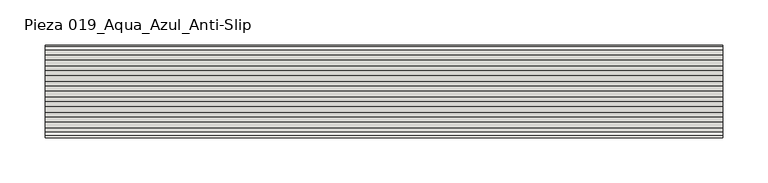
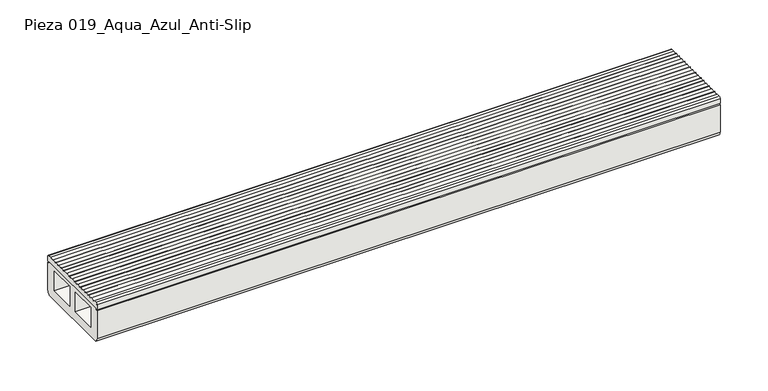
"""IFC4 building model written with IfcOpenShell, lengths in millimetres: slab geometry, ROSA GRES_019 : Pieza 019_Aqua_Azul_Anti-Slip."""

from ifc_helpers import new_model, si_unit, point, frame, frame_2d, origin, place, context, project, spatial, polyline, circle_curve, trimmed, segment, composite_curve, outline, extrude, source, transform, mapped, element, save


def pieza_019_aqua_azul_anti_slip_f86fad29(model_context):
    return source(origin(), model_context, "Body", "SweptSolid", [
        extrude(outline(composite_curve([segment(polyline([(-2.5063138, 42.1085977), (-2.5063138, 40.6048094), (0.0, 40.6048094), (0.0, 5.0126276)]), True, "CONTINUOUS"), segment(trimmed(circle_curve(frame_2d((-5.0126276, 5.0126276)), 5.0126276), [point((0.0, 5.0126276))], [point((-5.0126276, 0.0))], False, "CARTESIAN"), True, "CONTINUOUS"), segment(polyline([(-5.0126276, 0.0), (-97.2449763, 0.0)]), True, "CONTINUOUS"), segment(trimmed(circle_curve(frame_2d((-97.2449763, 5.0126276)), 5.0126276), [point((-97.2449763, 0.0))], [point((-102.2576039, 5.0126276))], False, "CARTESIAN"), True, "CONTINUOUS"), segment(polyline([(-102.2576039, 5.0126276), (-102.2576039, 40.6048094), (-99.7512901, 40.6048094), (-99.7512901, 42.1085977), (-2.5063138, 42.1085977)]), True, "CONTINUOUS")], self_intersect=False), holes=[polyline([(-45.1136488, 37.0959701), (-45.1136488, 12.0328319), (-13.0328319, 12.0328319), (-13.0328319, 37.0959701), (-45.1136488, 37.0959701)]), polyline([(-89.2247721, 37.0959701), (-89.2247721, 12.0328319), (-57.1439551, 12.0328319), (-57.1439551, 37.0959701), (-89.2247721, 37.0959701)])]), frame((0.0, 0.0, 0.0), z_axis=(1.0, 0.0, 0.0), x_axis=(0.0, 1.0, 0.0)), (0.0, 0.0, 1.0), 750.0),
        extrude(outline(composite_curve([segment(trimmed(circle_curve(frame_2d((-100.2525529, 48.1237509)), 2.0050511), [point((-102.2576039, 48.1237509))], [point((-100.2525529, 50.128802))], False, "CARTESIAN"), True, "CONTINUOUS"), segment(polyline([(-100.2525529, 50.128802), (-96.4873892, 50.128802)]), True, "CONTINUOUS"), segment(trimmed(circle_curve(frame_2d((-94.0124786, 52.6161241)), 3.5088394), [point((-96.4873892, 50.128802))], [point((-91.1535668, 50.5817748))], True, "CARTESIAN"), True, "CONTINUOUS"), segment(trimmed(circle_curve(frame_2d((-88.2946551, 52.6161241)), 3.5088394), [point((-91.1535668, 50.5817748))], [point((-85.4357433, 50.5817748))], True, "CARTESIAN"), True, "CONTINUOUS"), segment(trimmed(circle_curve(frame_2d((-82.5768315, 52.6161241)), 3.5088394), [point((-85.4357433, 50.5817748))], [point((-79.7179197, 50.5817748))], True, "CARTESIAN"), True, "CONTINUOUS"), segment(trimmed(circle_curve(frame_2d((-76.859008, 52.6161241)), 3.5088394), [point((-79.7179197, 50.5817748))], [point((-74.0000962, 50.5817748))], True, "CARTESIAN"), True, "CONTINUOUS"), segment(trimmed(circle_curve(frame_2d((-71.1411844, 52.6161241)), 3.5088394), [point((-74.0000962, 50.5817748))], [point((-68.2822726, 50.5817748))], True, "CARTESIAN"), True, "CONTINUOUS"), segment(trimmed(circle_curve(frame_2d((-65.4233609, 52.6161241)), 3.5088394), [point((-68.2822726, 50.5817748))], [point((-62.5644491, 50.5817748))], True, "CARTESIAN"), True, "CONTINUOUS"), segment(trimmed(circle_curve(frame_2d((-59.7055373, 52.6161241)), 3.5088394), [point((-62.5644491, 50.5817748))], [point((-56.8466255, 50.5817748))], True, "CARTESIAN"), True, "CONTINUOUS"), segment(trimmed(circle_curve(frame_2d((-53.9877138, 52.6161241)), 3.5088394), [point((-56.8466255, 50.5817748))], [point((-51.128802, 50.5817748))], True, "CARTESIAN"), True, "CONTINUOUS"), segment(trimmed(circle_curve(frame_2d((-48.2698902, 52.6161241)), 3.5088394), [point((-51.128802, 50.5817748))], [point((-45.4109784, 50.5817748))], True, "CARTESIAN"), True, "CONTINUOUS"), segment(trimmed(circle_curve(frame_2d((-42.5520666, 52.6161241)), 3.5088394), [point((-45.4109784, 50.5817748))], [point((-39.6931549, 50.5817748))], True, "CARTESIAN"), True, "CONTINUOUS"), segment(trimmed(circle_curve(frame_2d((-36.8342431, 52.6161241)), 3.5088394), [point((-39.6931549, 50.5817748))], [point((-33.9753313, 50.5817748))], True, "CARTESIAN"), True, "CONTINUOUS"), segment(trimmed(circle_curve(frame_2d((-31.1164195, 52.6161241)), 3.5088394), [point((-33.9753313, 50.5817748))], [point((-28.2575078, 50.5817748))], True, "CARTESIAN"), True, "CONTINUOUS"), segment(trimmed(circle_curve(frame_2d((-25.398596, 52.6161241)), 3.5088394), [point((-28.2575078, 50.5817748))], [point((-22.5396842, 50.5817748))], True, "CARTESIAN"), True, "CONTINUOUS"), segment(trimmed(circle_curve(frame_2d((-19.6807724, 52.6161241)), 3.5088394), [point((-22.5396842, 50.5817748))], [point((-16.8218607, 50.5817748))], True, "CARTESIAN"), True, "CONTINUOUS"), segment(trimmed(circle_curve(frame_2d((-13.9629489, 52.6161241)), 3.5088394), [point((-16.8218607, 50.5817748))], [point((-11.1040371, 50.5817748))], True, "CARTESIAN"), True, "CONTINUOUS"), segment(trimmed(circle_curve(frame_2d((-8.2451253, 52.6161241)), 3.5088394), [point((-11.1040371, 50.5817748))], [point((-5.7702148, 50.128802))], True, "CARTESIAN"), True, "CONTINUOUS"), segment(polyline([(-5.7702148, 50.128802), (-2.0050511, 50.128802)]), True, "CONTINUOUS"), segment(trimmed(circle_curve(frame_2d((-2.0050511, 48.1237509)), 2.0050511), [point((-2.0050511, 50.128802))], [point((0.0, 48.1237509))], False, "CARTESIAN"), True, "CONTINUOUS"), segment(polyline([(0.0, 48.1237509), (0.0, 42.1085977), (-102.2576039, 42.1085977), (-102.2576039, 48.1237509)]), True, "CONTINUOUS")], self_intersect=False)), frame((0.0, 0.0, 0.0), z_axis=(1.0, 0.0, 0.0), x_axis=(0.0, 1.0, 0.0)), (0.0, 0.0, 1.0), 750.0),
    ])


if __name__ == "__main__":
    model = new_model("IFC4")
    model_context = context("Model", 3, world=origin())
    ifc_project = project(units=[si_unit("LENGTHUNIT", "METRE", prefix="MILLI")], contexts=[model_context])
    site = spatial("IfcSite", under=ifc_project)
    building = spatial("IfcBuilding", under=site)
    placement = place(None, origin())
    pieza_019_aqua_azul_anti_slip_shape = pieza_019_aqua_azul_anti_slip_f86fad29(model_context)
    element("IfcSlab", 1, ObjectType="ROSA GRES_019 : Pieza 019_Aqua_Azul_Anti-Slip", at=placement, inside=building, context=model_context, shape_type="MappedRepresentation", body=[
        mapped(pieza_019_aqua_azul_anti_slip_shape, transform((0.0, 0.0, 0.0), x_axis=(1.0, 0.0, 0.0), y_axis=(0.0, 1.0, 0.0), z_axis=(0.0, 0.0, 1.0))),
    ])
    save(model, "model.ifc")
